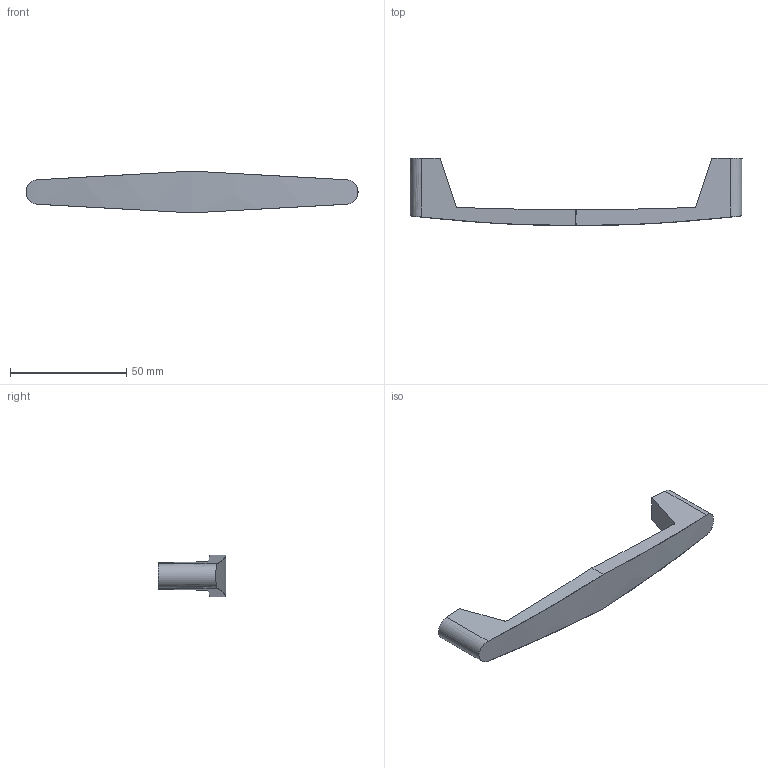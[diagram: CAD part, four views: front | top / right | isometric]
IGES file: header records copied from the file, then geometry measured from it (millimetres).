
Start section: Data from Parasolid IGES Translator 15.0.47, Copyright(c) 2006 Siemens P LM Software. All Rights Reserved.
Global section: file name: 9070678.igs; native system:  By UGS Corp.; preprocessor: XPlus GENERIC/IGES 3.0; author: Noname; organization: Noname; date: 20140122.150226; units: millimetre
Bounding box: 143 x 29 x 18 mm (x, y, z)
Surface area: 7923.4 mm2 (no closed solid volume)
Topology: 0 solids, 0 shells, 18 faces, 84 edges, 82 vertices
Faces by surface type: extrusion 10, revolution 8
